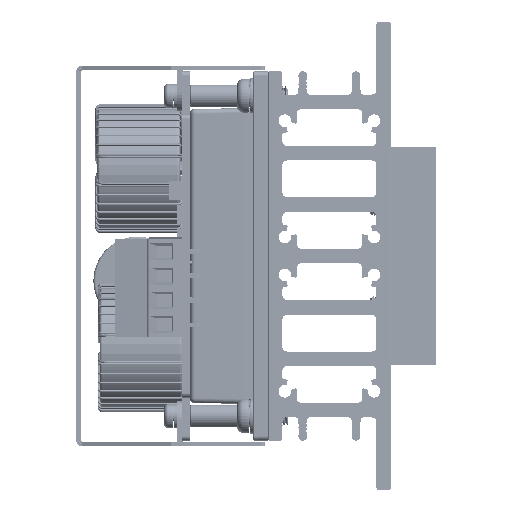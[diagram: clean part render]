
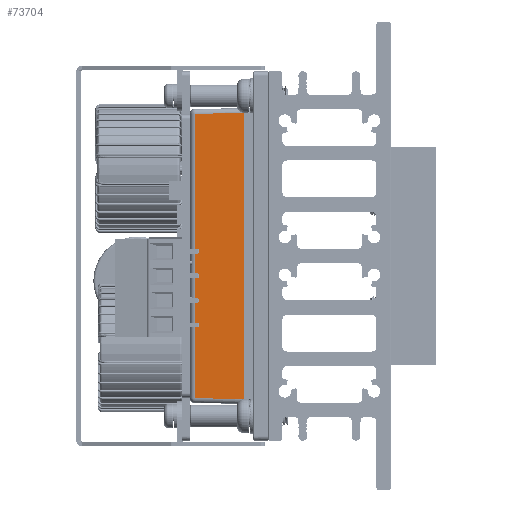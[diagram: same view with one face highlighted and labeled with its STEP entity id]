
A CAD part, left-side view. The second image highlights one B-rep face of the part: STEP entity #73704.
In plain terms, the highlighted planar face has unit normal (-1, 0.018, 0).
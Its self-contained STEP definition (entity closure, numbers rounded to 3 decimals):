
#691 = ORIENTED_EDGE ( 'NONE', *, *, #111326, .T. ) ;
#7915 = ORIENTED_EDGE ( 'NONE', *, *, #44033, .T. ) ;
#10618 = EDGE_CURVE ( 'NONE', #47648, #219011, #60697, .T. ) ;
#14807 = AXIS2_PLACEMENT_3D ( 'NONE', #175916, #190937, #119625 ) ;
#26229 = CARTESIAN_POINT ( 'NONE',  ( -6.117, 18.117, -30.306 ) ) ;
#27808 = VERTEX_POINT ( 'NONE', #196703 ) ;
#32272 = DIRECTION ( 'NONE',  ( -0.017, -1., -0.017 ) ) ;
#32542 = VECTOR ( 'NONE', #160299, 1000. ) ;
#40140 = CARTESIAN_POINT ( 'NONE',  ( -6.294, 7.983, 29.5 ) ) ;
#40374 = CARTESIAN_POINT ( 'NONE',  ( -6.294, 8., -30.5 ) ) ;
#40448 = ORIENTED_EDGE ( 'NONE', *, *, #10618, .T. ) ;
#41291 = LINE ( 'NONE', #40140, #57190 ) ;
#41790 = ORIENTED_EDGE ( 'NONE', *, *, #179060, .T. ) ;
#44033 = EDGE_CURVE ( 'NONE', #27808, #47648, #41291, .T. ) ;
#47648 = VERTEX_POINT ( 'NONE', #126409 ) ;
#48752 = VECTOR ( 'NONE', #32272, 1000. ) ;
#49456 = FACE_OUTER_BOUND ( 'NONE', #184297, .T. ) ;
#54207 = DIRECTION ( 'NONE',  ( 0., 0., 1. ) ) ;
#57190 = VECTOR ( 'NONE', #83466, 1000. ) ;
#60588 = CARTESIAN_POINT ( 'NONE',  ( -6.117, 18.117, -29.324 ) ) ;
#60697 = LINE ( 'NONE', #26229, #32542 ) ;
#73704 = ADVANCED_FACE ( 'NONE', ( #49456 ), #88503, .T. ) ;
#83466 = DIRECTION ( 'NONE',  ( 0.017, 1., -0.017 ) ) ;
#86415 = VECTOR ( 'NONE', #54207, 1000. ) ;
#88503 = PLANE ( 'NONE',  #14807 ) ;
#111326 = EDGE_CURVE ( 'NONE', #219011, #122341, #224404, .T. ) ;
#111711 = CARTESIAN_POINT ( 'NONE',  ( -6.294, 8., -29.5 ) ) ;
#119625 = DIRECTION ( 'NONE',  ( 0.017, 1., 0. ) ) ;
#122341 = VERTEX_POINT ( 'NONE', #111711 ) ;
#126409 = CARTESIAN_POINT ( 'NONE',  ( -6.117, 18.117, 29.324 ) ) ;
#133587 = CARTESIAN_POINT ( 'NONE',  ( -6.276, 9.047, -29.482 ) ) ;
#160299 = DIRECTION ( 'NONE',  ( 0., 0., -1. ) ) ;
#175916 = CARTESIAN_POINT ( 'NONE',  ( -6.294, 8., 30.5 ) ) ;
#179060 = EDGE_CURVE ( 'NONE', #122341, #27808, #197957, .T. ) ;
#184297 = EDGE_LOOP ( 'NONE', ( #41790, #7915, #40448, #691 ) ) ;
#190937 = DIRECTION ( 'NONE',  ( -1., 0.017, 0. ) ) ;
#196703 = CARTESIAN_POINT ( 'NONE',  ( -6.294, 8., 29.5 ) ) ;
#197957 = LINE ( 'NONE', #40374, #86415 ) ;
#219011 = VERTEX_POINT ( 'NONE', #60588 ) ;
#224404 = LINE ( 'NONE', #133587, #48752 ) ;
